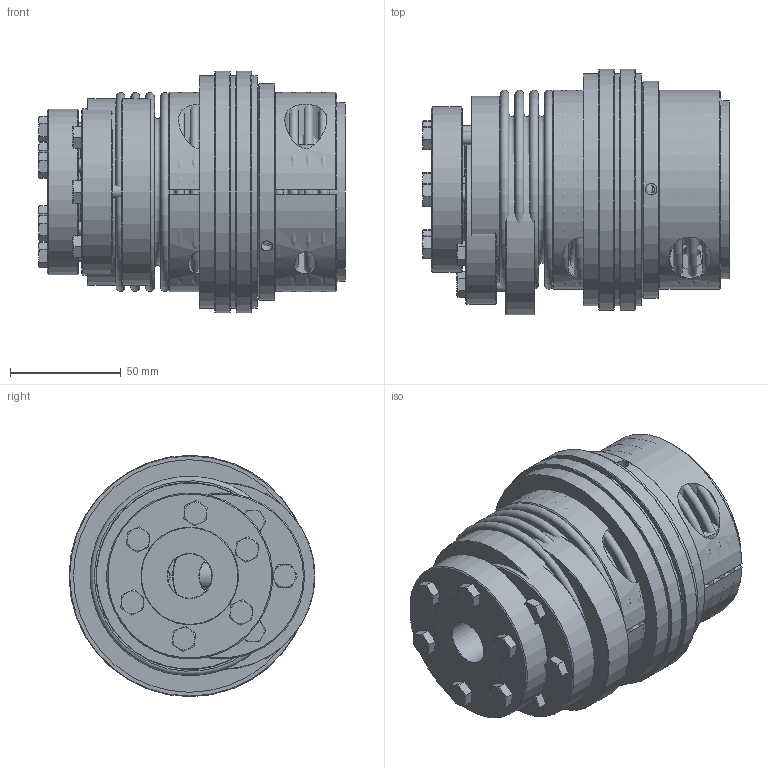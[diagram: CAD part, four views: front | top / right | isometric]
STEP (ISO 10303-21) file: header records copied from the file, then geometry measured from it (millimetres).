
FILE_DESCRIPTION( ( 'Unknown' ), '1' );
FILE_NAME( 'C:/Dokumente und Einstellungen/SKarpstein/Desktop/Korrigierte 3D Modelle/KBK-B-AK/KBK-BAK-200-135.stp', 'Unknown', ( 'Unknown' ), ( 'Unknown' ), 'XStep 1.0', 'Unknown', ' ' );
FILE_SCHEMA( ( 'automotive_design' ) );
Length unit declared in the file: millimetre
Products named in the file (13): Assem1; Assem2; Assem3; Zylinderschraube DIN 912_2; Hex Screw GradeC_DIN_ISO 4018 - M6 x 30-NN_1; BA200_Standard; DR200_Standard; Stellring 200; Druckring 200; KBK L-K-200 Grundkörper; Klemmnabe 200; Flansch BK200; BL200_Standard_0
Bounding box: 138.55 x 111.07 x 109 mm (x, y, z)
Volume: 1323982.8 mm3; surface area: 486976.4 mm2
Topology: 34 solids, 34 shells, 634 faces, 1311 edges, 841 vertices
Faces by surface type: plane 272, cone 167, cylinder 139, torus 56
Full cylindrical faces by diameter (mm): 3.242 x6, 5 x18, 5.2 x12, 6 x13, 6.6 x18, 10.106 x2, 12 x3, 12.5 x2, 18 x3, 19 x2, 20 x5, 45 x2, 47 x2, 49.29 x3, 50 x4, 60 x2, 62 x2, 65 x2, 66 x4, 75 x3, 77 x2, 79.2 x4, 80.4 x4, 84.5 x3, 90 x2, 98 x2, 105 x4, 109 x2
Entity records: 5528 total; most frequent: CARTESIAN_POINT 1306, DIRECTION 872, ORIENTED_EDGE 542, AXIS2_PLACEMENT_3D 413, EDGE_LOOP 400, FACE_OUTER_BOUND 281, EDGE_CURVE 271, VERTEX_POINT 239
